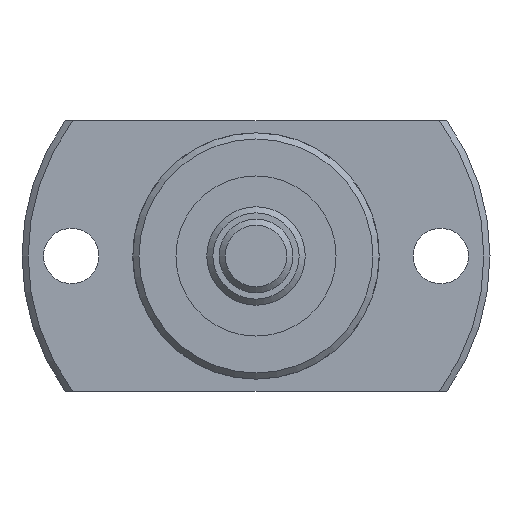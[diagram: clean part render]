
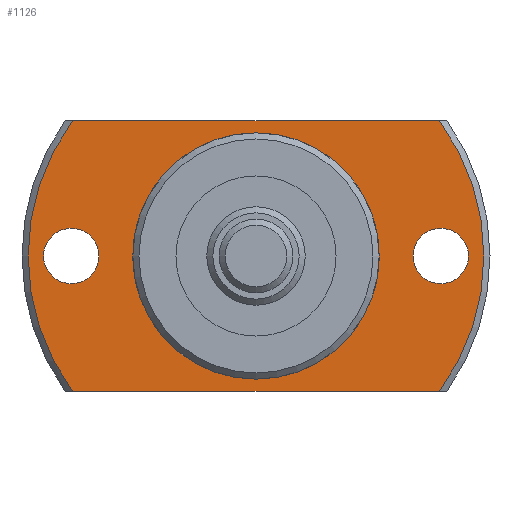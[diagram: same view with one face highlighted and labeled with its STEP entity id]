
A CAD part, left-side view. The second image highlights one B-rep face of the part: STEP entity #1126.
In plain terms, the highlighted planar face has unit normal (-1, 0, 0).
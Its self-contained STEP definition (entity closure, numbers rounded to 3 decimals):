
#115=CIRCLE('',#1251,9.85);
#118=CIRCLE('',#1255,18.5);
#124=CIRCLE('',#1266,2.25);
#125=CIRCLE('',#1267,2.25);
#126=CIRCLE('',#1268,18.5);
#260=ORIENTED_EDGE('',*,*,#523,.T.);
#261=ORIENTED_EDGE('',*,*,#524,.T.);
#262=ORIENTED_EDGE('',*,*,#512,.F.);
#263=ORIENTED_EDGE('',*,*,#525,.T.);
#264=ORIENTED_EDGE('',*,*,#526,.F.);
#265=ORIENTED_EDGE('',*,*,#527,.T.);
#266=ORIENTED_EDGE('',*,*,#506,.T.);
#506=EDGE_CURVE('',#648,#648,#115,.T.);
#512=EDGE_CURVE('',#653,#654,#118,.T.);
#523=EDGE_CURVE('',#663,#663,#124,.T.);
#524=EDGE_CURVE('',#664,#664,#125,.T.);
#525=EDGE_CURVE('',#653,#665,#738,.T.);
#526=EDGE_CURVE('',#666,#665,#126,.T.);
#527=EDGE_CURVE('',#666,#654,#739,.T.);
#648=VERTEX_POINT('',#1836);
#653=VERTEX_POINT('',#1850);
#654=VERTEX_POINT('',#1852);
#663=VERTEX_POINT('',#1886);
#664=VERTEX_POINT('',#1888);
#665=VERTEX_POINT('',#1890);
#666=VERTEX_POINT('',#1892);
#738=LINE('',#1889,#798);
#739=LINE('',#1893,#799);
#798=VECTOR('',#1515,1000.);
#799=VECTOR('',#1518,1000.);
#884=EDGE_LOOP('',(#260));
#885=EDGE_LOOP('',(#261));
#886=EDGE_LOOP('',(#262,#263,#264,#265));
#887=EDGE_LOOP('',(#266));
#996=FACE_BOUND('',#884,.T.);
#997=FACE_BOUND('',#885,.T.);
#998=FACE_BOUND('',#886,.T.);
#999=FACE_BOUND('',#887,.T.);
#1071=PLANE('',#1265);
#1126=ADVANCED_FACE('',(#996,#997,#998,#999),#1071,.F.);
#1251=AXIS2_PLACEMENT_3D('',#1835,#1477,#1478);
#1255=AXIS2_PLACEMENT_3D('',#1851,#1487,#1488);
#1265=AXIS2_PLACEMENT_3D('',#1884,#1509,#1510);
#1266=AXIS2_PLACEMENT_3D('',#1885,#1511,#1512);
#1267=AXIS2_PLACEMENT_3D('',#1887,#1513,#1514);
#1268=AXIS2_PLACEMENT_3D('',#1891,#1516,#1517);
#1477=DIRECTION('',(1.,0.,0.));
#1478=DIRECTION('',(0.,0.,-1.));
#1487=DIRECTION('',(1.,0.,0.));
#1488=DIRECTION('',(0.,0.,-1.));
#1509=DIRECTION('',(1.,0.,0.));
#1510=DIRECTION('',(0.,0.,-1.));
#1511=DIRECTION('',(1.,0.,0.));
#1512=DIRECTION('',(0.,0.,-1.));
#1513=DIRECTION('',(1.,0.,0.));
#1514=DIRECTION('',(0.,0.,-1.));
#1515=DIRECTION('',(0.,-1.,0.));
#1516=DIRECTION('',(1.,0.,0.));
#1517=DIRECTION('',(0.,0.,-1.));
#1518=DIRECTION('',(0.,1.,0.));
#1835=CARTESIAN_POINT('',(19.,0.,0.));
#1836=CARTESIAN_POINT('',(19.,0.,-9.85));
#1850=CARTESIAN_POINT('',(19.,14.874,-11.));
#1851=CARTESIAN_POINT('',(19.,0.,0.));
#1852=CARTESIAN_POINT('',(19.,14.874,11.));
#1884=CARTESIAN_POINT('',(19.,9.85,0.));
#1885=CARTESIAN_POINT('',(19.,-15.,0.));
#1886=CARTESIAN_POINT('',(19.,-15.,-2.25));
#1887=CARTESIAN_POINT('',(19.,15.,0.));
#1888=CARTESIAN_POINT('',(19.,15.,-2.25));
#1889=CARTESIAN_POINT('',(19.,9.85,-11.));
#1890=CARTESIAN_POINT('',(19.,-14.874,-11.));
#1891=CARTESIAN_POINT('',(19.,0.,0.));
#1892=CARTESIAN_POINT('',(19.,-14.874,11.));
#1893=CARTESIAN_POINT('',(19.,9.85,11.));
